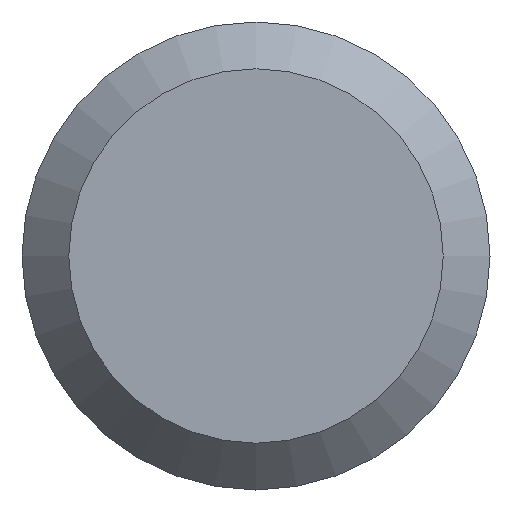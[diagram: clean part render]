
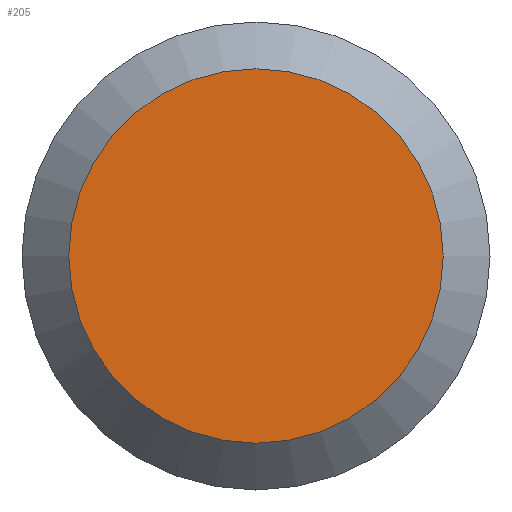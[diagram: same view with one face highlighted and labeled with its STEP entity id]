
A CAD part, left-side view. The second image highlights one B-rep face of the part: STEP entity #205.
In plain terms, the highlighted planar face has unit normal (-1, 0, 0).
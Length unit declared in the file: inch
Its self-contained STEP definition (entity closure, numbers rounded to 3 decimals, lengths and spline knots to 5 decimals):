
#18 = EDGE_LOOP ( 'NONE', ( #171 ) ) ;
#57 = FACE_OUTER_BOUND ( 'NONE', #18, .T. ) ;
#62 = DIRECTION ( 'NONE',  ( 0., 0., -1. ) ) ;
#71 = EDGE_CURVE ( 'NONE', #196, #196, #157, .T. ) ;
#142 = PLANE ( 'NONE',  #179 ) ;
#157 = CIRCLE ( 'NONE', #206, 0.0314 ) ;
#171 = ORIENTED_EDGE ( 'NONE', *, *, #71, .T. ) ;
#173 = CARTESIAN_POINT ( 'NONE',  ( 0., 0., 0. ) ) ;
#177 = DIRECTION ( 'NONE',  ( -1., 0., 0. ) ) ;
#179 = AXIS2_PLACEMENT_3D ( 'NONE', #247, #204, #249 ) ;
#196 = VERTEX_POINT ( 'NONE', #214 ) ;
#204 = DIRECTION ( 'NONE',  ( 1., 0., 0. ) ) ;
#205 = ADVANCED_FACE ( 'NONE', ( #57 ), #142, .F. ) ;
#206 = AXIS2_PLACEMENT_3D ( 'NONE', #173, #177, #62 ) ;
#214 = CARTESIAN_POINT ( 'NONE',  ( 0., 0., -0.0314 ) ) ;
#247 = CARTESIAN_POINT ( 'NONE',  ( 0., 0.03925, 0. ) ) ;
#249 = DIRECTION ( 'NONE',  ( 0., 0., -1. ) ) ;
